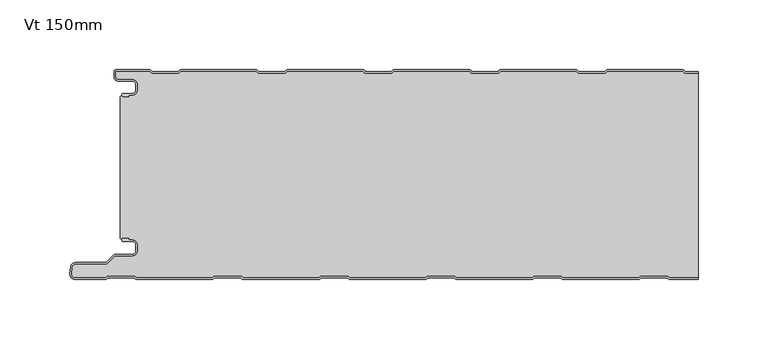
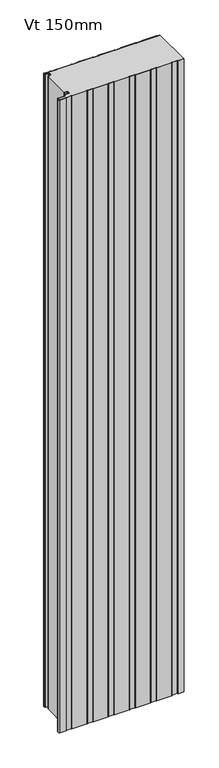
"""IFC4 building model written with IfcOpenShell, lengths in millimetres: plate geometry, KIP-MEX-KSS-1067-R19-CP-Vt-SL_SL : Vt 150mm."""

from ifc_helpers import new_model, si_unit, point, frame, frame_2d, origin, origin_with_axes, place, context, project, spatial, polyline, circle_curve, trimmed, segment, composite_curve, outline, extrude, source, transform, mapped, element, save
from ifc_brep_helpers import plane_surface, cylinder_surface, revolved_surface, advanced_brep


def vt_150mm_fdc8ce0f(model_context):
    return source(origin(), model_context, "Body", "SolidModel", [
        advanced_brep(
        [(-204.468691, -17.0015159, 2400.0), (-205.4686883, -18.0015191, 2400.0), (-204.468691, -19.0015105, 2400.0), (-200.4684874, -19.0015105, 2400.0), (-200.4684874, -18.0015159, 2400.0), (-197.7762776, -18.0015159, 2400.0), (-194.4762819, -14.7015202, 2400.0), (-194.4762819, -10.301529, 2400.0), (-197.7762774, -7.0015335, 2400.0), (-208.1962563, -7.0015335, 2400.0), (-209.9662505, -5.2315393, 2400.0), (-209.9662505, -0.9999916, 2400.0), (-185.4659738, -0.9999916, 2400.0), (-184.0803312, -2.2002307, 2400.0), (-164.7051649, -2.2002307, 2400.0), (-163.319532, -1.0, 2400.0), (-109.2661166, -1.0, 2400.0), (-107.8804836, -2.2002307, 2400.0), (-88.5053173, -2.2002307, 2400.0), (-87.1196844, -1.0, 2400.0), (-33.066269, -1.0, 2400.0), (-31.680636, -2.2002307, 2400.0), (-12.3054697, -2.2002307, 2400.0), (-10.9198368, -1.0, 2400.0), (43.1335786, -1.0, 2400.0), (44.5192116, -2.2002307, 2400.0), (63.8943779, -2.2002307, 2400.0), (65.2800108, -1.0, 2400.0), (119.3334262, -1.0, 2400.0), (120.7190592, -2.2002307, 2400.0), (140.0942255, -2.2002307, 2400.0), (141.4798584, -1.0, 2400.0), (195.5332738, -1.0, 2400.0), (196.9189068, -2.2002307, 2400.0), (206.4999998, -2.2002307, 2400.0), (206.4999998, -1.2002307, 2400.0), (197.2917872, -1.2002307, 2400.0), (196.3007396, -0.3417885, 2400.0), (195.3841227, 0.0, 2400.0), (141.6290096, 0.0, 2400.0), (140.7123927, -0.3417885, 2400.0), (139.7213451, -1.2002307, 2400.0), (121.0919396, -1.2002307, 2400.0), (120.100892, -0.3417885, 2400.0), (119.1842751, 0.0, 2400.0), (65.429162, 0.0, 2400.0), (64.5125451, -0.3417885, 2400.0), (63.5214975, -1.2002307, 2400.0), (44.892092, -1.2002307, 2400.0), (43.9010444, -0.3417885, 2400.0), (42.9844275, 0.0, 2400.0), (-10.7706856, 0.0, 2400.0), (-11.6873025, -0.3417885, 2400.0), (-12.6783501, -1.2002307, 2400.0), (-31.3077556, -1.2002307, 2400.0), (-32.2988032, -0.3417885, 2400.0), (-33.2154201, 0.0, 2400.0), (-86.9705332, 0.0, 2400.0), (-87.8871501, -0.3417885, 2400.0), (-88.8781977, -1.2002307, 2400.0), (-107.5076032, -1.2002307, 2400.0), (-108.4986508, -0.3417885, 2400.0), (-109.4152677, 0.0, 2400.0), (-163.1703808, 0.0, 2400.0), (-164.0869977, -0.3417885, 2400.0), (-165.0780453, -1.2002307, 2400.0), (-183.7074508, -1.2002307, 2400.0), (-184.6984984, -0.3417885, 2400.0), (-185.6152067, 0.0, 2400.0), (-209.5662543, 8.4e-06, 2400.0), (-210.9662505, -1.3999878, 2400.0), (-210.9662505, -5.2315393, 2400.0), (-208.1962563, -8.0015335, 2400.0), (-197.7762774, -8.0015335, 2400.0), (-195.4762819, -10.301529, 2400.0), (-195.4762819, -14.7015202, 2400.0), (-197.7762776, -17.0015159, 2400.0), (-204.468691, -17.0015159, 0.0), (-197.7762776, -17.0015159, 0.0), (-195.4762819, -14.7015202, 0.0), (-195.4762819, -10.301529, 0.0), (-197.7762774, -8.0015335, 0.0), (-208.1962563, -8.0015335, 0.0), (-210.9662505, -5.2315393, 0.0), (-210.9662505, -1.3999878, 0.0), (-209.5662543, 8.4e-06, 0.0), (-185.6151153, 8.4e-06, 0.0), (-184.6984984, -0.3417885, 0.0), (-183.7074508, -1.2002307, 0.0), (-165.0780453, -1.2002307, 0.0), (-164.0869977, -0.3417885, 0.0), (-163.1703808, 0.0, 0.0), (-109.4152677, 0.0, 0.0), (-108.4986508, -0.3417885, 0.0), (-107.5076032, -1.2002307, 0.0), (-88.8781977, -1.2002307, 0.0), (-87.8871501, -0.3417885, 0.0), (-86.9705332, 0.0, 0.0), (-33.2154201, 0.0, 0.0), (-32.2988032, -0.3417885, 0.0), (-31.3077556, -1.2002307, 0.0), (-12.6783501, -1.2002307, 0.0), (-11.6873025, -0.3417885, 0.0), (-10.7706856, 0.0, 0.0), (42.9844275, 0.0, 0.0), (43.9010444, -0.3417885, 0.0), (44.892092, -1.2002307, 0.0), (63.5214975, -1.2002307, 0.0), (64.5125451, -0.3417885, 0.0), (65.429162, 0.0, 0.0), (119.1842751, 0.0, 0.0), (120.100892, -0.3417885, 0.0), (121.0919396, -1.2002307, 0.0), (139.7213451, -1.2002307, 0.0), (140.7123927, -0.3417885, 0.0), (141.6290096, 0.0, 0.0), (195.3841227, 0.0, 0.0), (196.3007396, -0.3417885, 0.0), (197.2917872, -1.2002307, 0.0), (206.4999998, -1.2002307, 0.0), (206.4999998, -2.2002307, 0.0), (196.9189068, -2.2002307, 0.0), (195.5332738, -1.0, 0.0), (141.4798584, -1.0, 0.0), (140.0942255, -2.2002307, 0.0), (120.7190592, -2.2002307, 0.0), (119.3334262, -1.0, 0.0), (65.2800108, -1.0, 0.0), (63.8943779, -2.2002307, 0.0), (44.5192116, -2.2002307, 0.0), (43.1335786, -1.0, 0.0), (-10.9198368, -1.0, 0.0), (-12.3054697, -2.2002307, 0.0), (-31.680636, -2.2002307, 0.0), (-33.066269, -1.0, 0.0), (-87.1196844, -1.0, 0.0), (-88.5053173, -2.2002307, 0.0), (-107.8804836, -2.2002307, 0.0), (-109.2661166, -1.0, 0.0), (-163.319532, -1.0, 0.0), (-164.7051649, -2.2002307, 0.0), (-184.0803312, -2.2002307, 0.0), (-185.4659738, -0.9999916, 0.0), (-209.9662505, -0.9999916, 0.0), (-209.9662505, -5.2315393, 0.0), (-208.1962563, -7.0015335, 0.0), (-197.7762774, -7.0015335, 0.0), (-194.4762819, -10.301529, 0.0), (-194.4762819, -14.7015202, 0.0), (-197.7762776, -18.0015159, 0.0), (-200.4684874, -18.0015159, 0.0), (-200.4684874, -19.0015105, 0.0), (-204.468691, -19.0015105, 0.0), (-205.4686882, -18.0015192, 0.0)],
        [
            (0, 1, circle_curve(frame((-204.468691, -18.0015132, 2400.0), z_axis=(0.0, 0.0, 1.0), x_axis=(1.0, 0.0, 0.0)), 0.9999973)),
            (1, 2, circle_curve(frame((-204.468691, -18.0015133, 2400.0), z_axis=(0.0, 0.0, 1.0), x_axis=(1.0, 0.0, 0.0)), 0.9999972)),
            (2, 3),
            (3, 4),
            (4, 5),
            (5, 6, circle_curve(frame((-197.7762776, -14.7015202, 2400.0), z_axis=(0.0, 0.0, 1.0), x_axis=(1.0, 0.0, 0.0)), 3.2999957)),
            (6, 7),
            (7, 8, circle_curve(frame((-197.7762774, -10.301529, 2400.0), z_axis=(0.0, 0.0, 1.0), x_axis=(1.0, 0.0, 0.0)), 3.2999955)),
            (8, 9),
            (9, 10, circle_curve(frame((-208.1962563, -5.2315393, 2400.0), z_axis=(0.0, 0.0, -1.0), x_axis=(1.0, 0.0, 0.0)), 1.7699942)),
            (10, 11),
            (11, 12),
            (12, 13),
            (13, 14),
            (14, 15),
            (15, 16),
            (16, 17),
            (17, 18),
            (18, 19),
            (19, 20),
            (20, 21),
            (21, 22),
            (22, 23),
            (23, 24),
            (24, 25),
            (25, 26),
            (26, 27),
            (27, 28),
            (28, 29),
            (29, 30),
            (30, 31),
            (31, 32),
            (32, 33),
            (33, 34),
            (34, 35),
            (35, 36),
            (36, 37),
            (37, 38, circle_curve(frame((195.3841227, -1.3999972, 2400.0), z_axis=(0.0, 0.0, 1.0), x_axis=(1.0, 0.0, 0.0)), 1.3999972)),
            (38, 39),
            (39, 40, circle_curve(frame((141.6290096, -1.3999972, 2400.0), z_axis=(0.0, 0.0, 1.0), x_axis=(1.0, 0.0, 0.0)), 1.3999972)),
            (40, 41),
            (41, 42),
            (42, 43),
            (43, 44, circle_curve(frame((119.1842751, -1.3999972, 2400.0), z_axis=(0.0, 0.0, 1.0), x_axis=(1.0, 0.0, 0.0)), 1.3999972)),
            (44, 45),
            (45, 46, circle_curve(frame((65.429162, -1.3999972, 2400.0), z_axis=(0.0, 0.0, 1.0), x_axis=(1.0, 0.0, 0.0)), 1.3999972)),
            (46, 47),
            (47, 48),
            (48, 49),
            (49, 50, circle_curve(frame((42.9844275, -1.3999972, 2400.0), z_axis=(0.0, 0.0, 1.0), x_axis=(1.0, 0.0, 0.0)), 1.3999972)),
            (50, 51),
            (51, 52, circle_curve(frame((-10.7706856, -1.3999972, 2400.0), z_axis=(0.0, 0.0, 1.0), x_axis=(1.0, 0.0, 0.0)), 1.3999972)),
            (52, 53),
            (53, 54),
            (54, 55),
            (55, 56, circle_curve(frame((-33.2154201, -1.3999972, 2400.0), z_axis=(0.0, 0.0, 1.0), x_axis=(1.0, 0.0, 0.0)), 1.3999972)),
            (56, 57),
            (57, 58, circle_curve(frame((-86.9705332, -1.3999972, 2400.0), z_axis=(0.0, 0.0, 1.0), x_axis=(1.0, 0.0, 0.0)), 1.3999972)),
            (58, 59),
            (59, 60),
            (60, 61),
            (61, 62, circle_curve(frame((-109.4152677, -1.3999972, 2400.0), z_axis=(0.0, 0.0, 1.0), x_axis=(1.0, 0.0, 0.0)), 1.3999972)),
            (62, 63),
            (63, 64, circle_curve(frame((-163.1703808, -1.3999972, 2400.0), z_axis=(0.0, 0.0, 1.0), x_axis=(1.0, 0.0, 0.0)), 1.3999972)),
            (64, 65),
            (65, 66),
            (66, 67),
            (67, 68, circle_curve(frame((-185.6151153, -1.3999972, 2400.0), z_axis=(0.0, 0.0, 1.0), x_axis=(1.0, 0.0, 0.0)), 1.3999972)),
            (68, 69),
            (69, 70, circle_curve(frame((-209.5662543, -1.3999878, 2400.0), z_axis=(0.0, 0.0, 1.0), x_axis=(1.0, 0.0, 0.0)), 1.3999962)),
            (70, 71),
            (71, 72, circle_curve(frame((-208.1962563, -5.2315393, 2400.0), z_axis=(0.0, 0.0, 1.0), x_axis=(1.0, 0.0, 0.0)), 2.7699942)),
            (72, 73),
            (73, 74, circle_curve(frame((-197.7762774, -10.301529, 2400.0), z_axis=(0.0, 0.0, -1.0), x_axis=(1.0, 0.0, 0.0)), 2.2999955)),
            (74, 75),
            (75, 76, circle_curve(frame((-197.7762776, -14.7015202, 2400.0), z_axis=(0.0, 0.0, -1.0), x_axis=(1.0, 0.0, 0.0)), 2.2999957)),
            (76, 0),
            (77, 78),
            (78, 79, circle_curve(frame((-197.7762776, -14.7015202, 0.0), z_axis=(0.0, 0.0, 1.0), x_axis=(1.0, 0.0, 0.0)), 2.2999957)),
            (79, 80),
            (80, 81, circle_curve(frame((-197.7762774, -10.301529, 0.0), z_axis=(0.0, 0.0, 1.0), x_axis=(1.0, 0.0, 0.0)), 2.2999955)),
            (81, 82),
            (82, 83, circle_curve(frame((-208.1962563, -5.2315393, 0.0), z_axis=(0.0, 0.0, -1.0), x_axis=(1.0, 0.0, 0.0)), 2.7699942)),
            (83, 84),
            (84, 85, circle_curve(frame((-209.5662543, -1.3999878, 0.0), z_axis=(0.0, 0.0, -1.0), x_axis=(1.0, 0.0, 0.0)), 1.3999962)),
            (85, 86),
            (86, 87, circle_curve(frame((-185.6151153, -1.3999972, 0.0), z_axis=(0.0, 0.0, -1.0), x_axis=(1.0, 0.0, 0.0)), 1.3999972)),
            (87, 88),
            (88, 89),
            (89, 90),
            (90, 91, circle_curve(frame((-163.1703808, -1.3999972, 0.0), z_axis=(0.0, 0.0, -1.0), x_axis=(1.0, 0.0, 0.0)), 1.3999972)),
            (91, 92),
            (92, 93, circle_curve(frame((-109.4152677, -1.3999972, 0.0), z_axis=(0.0, 0.0, -1.0), x_axis=(1.0, 0.0, 0.0)), 1.3999972)),
            (93, 94),
            (94, 95),
            (95, 96),
            (96, 97, circle_curve(frame((-86.9705332, -1.3999972, 0.0), z_axis=(0.0, 0.0, -1.0), x_axis=(1.0, 0.0, 0.0)), 1.3999972)),
            (97, 98),
            (98, 99, circle_curve(frame((-33.2154201, -1.3999972, 0.0), z_axis=(0.0, 0.0, -1.0), x_axis=(1.0, 0.0, 0.0)), 1.3999972)),
            (99, 100),
            (100, 101),
            (101, 102),
            (102, 103, circle_curve(frame((-10.7706856, -1.3999972, 0.0), z_axis=(0.0, 0.0, -1.0), x_axis=(1.0, 0.0, 0.0)), 1.3999972)),
            (103, 104),
            (104, 105, circle_curve(frame((42.9844275, -1.3999972, 0.0), z_axis=(0.0, 0.0, -1.0), x_axis=(1.0, 0.0, 0.0)), 1.3999972)),
            (105, 106),
            (106, 107),
            (107, 108),
            (108, 109, circle_curve(frame((65.429162, -1.3999972, 0.0), z_axis=(0.0, 0.0, -1.0), x_axis=(1.0, 0.0, 0.0)), 1.3999972)),
            (109, 110),
            (110, 111, circle_curve(frame((119.1842751, -1.3999972, 0.0), z_axis=(0.0, 0.0, -1.0), x_axis=(1.0, 0.0, 0.0)), 1.3999972)),
            (111, 112),
            (112, 113),
            (113, 114),
            (114, 115, circle_curve(frame((141.6290096, -1.3999972, 0.0), z_axis=(0.0, 0.0, -1.0), x_axis=(1.0, 0.0, 0.0)), 1.3999972)),
            (115, 116),
            (116, 117, circle_curve(frame((195.3841227, -1.3999972, 0.0), z_axis=(0.0, 0.0, -1.0), x_axis=(1.0, 0.0, 0.0)), 1.3999972)),
            (117, 118),
            (118, 119),
            (119, 120),
            (120, 121),
            (121, 122),
            (122, 123),
            (123, 124),
            (124, 125),
            (125, 126),
            (126, 127),
            (127, 128),
            (128, 129),
            (129, 130),
            (130, 131),
            (131, 132),
            (132, 133),
            (133, 134),
            (134, 135),
            (135, 136),
            (136, 137),
            (137, 138),
            (138, 139),
            (139, 140),
            (140, 141),
            (141, 142),
            (142, 143),
            (143, 144),
            (144, 145, circle_curve(frame((-208.1962563, -5.2315393, 0.0), z_axis=(0.0, 0.0, 1.0), x_axis=(1.0, 0.0, 0.0)), 1.7699942)),
            (145, 146),
            (146, 147, circle_curve(frame((-197.7762774, -10.301529, 0.0), z_axis=(0.0, 0.0, -1.0), x_axis=(1.0, 0.0, 0.0)), 3.2999955)),
            (147, 148),
            (148, 149, circle_curve(frame((-197.7762776, -14.7015202, 0.0), z_axis=(0.0, 0.0, -1.0), x_axis=(1.0, 0.0, 0.0)), 3.2999957)),
            (149, 150),
            (150, 151),
            (151, 152),
            (152, 153, circle_curve(frame((-204.468691, -18.0015133, 0.0), z_axis=(0.0, 0.0, -1.0), x_axis=(1.0, 0.0, 0.0)), 0.9999972)),
            (153, 77, circle_curve(frame((-204.468691, -18.0015132, 0.0), z_axis=(0.0, 0.0, -1.0), x_axis=(1.0, 0.0, 0.0)), 0.9999973)),
            (76, 78),
            (77, 0),
            (75, 79),
            (74, 80),
            (73, 81),
            (72, 82),
            (71, 83),
            (70, 84),
            (69, 85),
            (68, 86),
            (67, 87),
            (66, 88),
            (65, 89),
            (64, 90),
            (63, 91),
            (62, 92),
            (61, 93),
            (60, 94),
            (59, 95),
            (58, 96),
            (57, 97),
            (56, 98),
            (55, 99),
            (54, 100),
            (53, 101),
            (52, 102),
            (51, 103),
            (50, 104),
            (49, 105),
            (48, 106),
            (47, 107),
            (46, 108),
            (45, 109),
            (44, 110),
            (43, 111),
            (42, 112),
            (41, 113),
            (40, 114),
            (39, 115),
            (38, 116),
            (37, 117),
            (36, 118),
            (35, 119),
            (120, 34),
            (33, 121),
            (32, 122),
            (31, 123),
            (30, 124),
            (29, 125),
            (28, 126),
            (27, 127),
            (26, 128),
            (25, 129),
            (24, 130),
            (23, 131),
            (22, 132),
            (21, 133),
            (20, 134),
            (19, 135),
            (18, 136),
            (17, 137),
            (16, 138),
            (15, 139),
            (14, 140),
            (13, 141),
            (12, 142),
            (11, 143),
            (10, 144),
            (9, 145),
            (8, 146),
            (7, 147),
            (6, 148),
            (5, 149),
            (4, 150),
            (3, 151),
            (2, 152),
            (1, 153),
        ],
        [
            plane_surface(frame((326.9000002, 0.0, 2400.0), z_axis=(0.0, 0.0, 1.0), x_axis=(0.0, 1.0, 0.0))),
            plane_surface(frame((326.9000002, 0.0, 0.0), z_axis=(0.0, 0.0, -1.0), x_axis=(0.0, 1.0, 0.0))),
            plane_surface(frame((-204.468691, -17.0015159, 2400.0), z_axis=(0.0, 1.0, 0.0), x_axis=(0.0, 0.0, -1.0))),
            revolved_surface(polyline([(-195.47628189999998, -14.7015202, 0.0), (-195.47628189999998, -14.7015202, 2400.0)]), (-197.7762776, -14.7015202, 2400.0), (0.0, 0.0, -1.0)),
            plane_surface(frame((-195.4762819, -14.7015202, 2400.0), z_axis=(-1.0, 0.0, 0.0), x_axis=(0.0, 0.0, -1.0))),
            revolved_surface(polyline([(-195.4762819, -10.301529, 0.0), (-195.4762819, -10.301529, 2400.0)]), (-197.7762774, -10.301529, 2400.0), (0.0, 0.0, -1.0)),
            plane_surface(frame((-197.7762774, -8.0015335, 2400.0), z_axis=(0.0, -1.0, 0.0), x_axis=(0.0, 0.0, -1.0))),
            cylinder_surface(frame((-208.1962563, -5.2315393, 2400.0), z_axis=(0.0, 0.0, 1.0), x_axis=(1.0, 0.0, 0.0)), 2.7699942),
            plane_surface(frame((-210.9662505, -5.2315393, 2400.0), z_axis=(-1.0, 0.0, 0.0), x_axis=(0.0, 0.0, -1.0))),
            cylinder_surface(frame((-209.5662543, -1.3999878, 2400.0), z_axis=(0.0, 0.0, 1.0), x_axis=(1.0, 0.0, 0.0)), 1.3999962),
            plane_surface(frame((-209.5662543, 8.4e-06, 2400.0), z_axis=(0.0, 1.0, 0.0), x_axis=(0.0, 0.0, -1.0))),
            cylinder_surface(frame((-185.6151153, -1.3999972, 2400.0), z_axis=(0.0, 0.0, 1.0), x_axis=(1.0, 0.0, 0.0)), 1.3999972),
            plane_surface(frame((-184.6984984, -0.3417885, 2400.0), z_axis=(0.6547276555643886, 0.755864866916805, 0.0), x_axis=(0.0, 0.0, -1.0))),
            plane_surface(frame((-174.3927481, -1.2002307, 2400.0), z_axis=(0.0, 1.0, 0.0), x_axis=(0.0, 0.0, -1.0))),
            plane_surface(frame((-165.0780453, -1.2002307, 2400.0), z_axis=(-0.6547276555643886, 0.755864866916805, 0.0), x_axis=(0.0, 0.0, -1.0))),
            cylinder_surface(frame((-163.1703808, -1.3999972, 2400.0), z_axis=(0.0, 0.0, 1.0), x_axis=(1.0, 0.0, 0.0)), 1.3999972),
            plane_surface(frame((-163.1703808, 0.0, 2400.0), z_axis=(0.0, 1.0, 0.0), x_axis=(0.0, 0.0, -1.0))),
            cylinder_surface(frame((-109.4152677, -1.3999972, 2400.0), z_axis=(0.0, 0.0, 1.0), x_axis=(1.0, 0.0, 0.0)), 1.3999972),
            plane_surface(frame((-108.4986508, -0.3417885, 2400.0), z_axis=(0.6547276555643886, 0.755864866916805, 0.0), x_axis=(0.0, 0.0, -1.0))),
            plane_surface(frame((-98.1929005, -1.2002307, 2400.0), z_axis=(0.0, 1.0, 0.0), x_axis=(0.0, 0.0, -1.0))),
            plane_surface(frame((-88.8781977, -1.2002307, 2400.0), z_axis=(-0.6547276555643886, 0.755864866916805, 0.0), x_axis=(0.0, 0.0, -1.0))),
            cylinder_surface(frame((-86.9705332, -1.3999972, 2400.0), z_axis=(0.0, 0.0, 1.0), x_axis=(1.0, 0.0, 0.0)), 1.3999972),
            plane_surface(frame((-86.9705332, 0.0, 2400.0), z_axis=(0.0, 1.0, 0.0), x_axis=(0.0, 0.0, -1.0))),
            cylinder_surface(frame((-33.2154201, -1.3999972, 2400.0), z_axis=(0.0, 0.0, 1.0), x_axis=(1.0, 0.0, 0.0)), 1.3999972),
            plane_surface(frame((-32.2988032, -0.3417885, 2400.0), z_axis=(0.6547276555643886, 0.755864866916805, 0.0), x_axis=(0.0, 0.0, -1.0))),
            plane_surface(frame((-21.9930529, -1.2002307, 2400.0), z_axis=(0.0, 1.0, 0.0), x_axis=(0.0, 0.0, -1.0))),
            plane_surface(frame((-12.6783501, -1.2002307, 2400.0), z_axis=(-0.6547276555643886, 0.755864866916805, 0.0), x_axis=(0.0, 0.0, -1.0))),
            cylinder_surface(frame((-10.7706856, -1.3999972, 2400.0), z_axis=(0.0, 0.0, 1.0), x_axis=(1.0, 0.0, 0.0)), 1.3999972),
            plane_surface(frame((-10.7706856, 0.0, 2400.0), z_axis=(0.0, 1.0, 0.0), x_axis=(0.0, 0.0, -1.0))),
            cylinder_surface(frame((42.9844275, -1.3999972, 2400.0), z_axis=(0.0, 0.0, 1.0), x_axis=(1.0, 0.0, 0.0)), 1.3999972),
            plane_surface(frame((43.9010444, -0.3417885, 2400.0), z_axis=(0.6547276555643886, 0.755864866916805, 0.0), x_axis=(0.0, 0.0, -1.0))),
            plane_surface(frame((54.2067947, -1.2002307, 2400.0), z_axis=(0.0, 1.0, 0.0), x_axis=(0.0, 0.0, -1.0))),
            plane_surface(frame((63.5214975, -1.2002307, 2400.0), z_axis=(-0.6547276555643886, 0.755864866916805, 0.0), x_axis=(0.0, 0.0, -1.0))),
            cylinder_surface(frame((65.429162, -1.3999972, 2400.0), z_axis=(0.0, 0.0, 1.0), x_axis=(1.0, 0.0, 0.0)), 1.3999972),
            plane_surface(frame((65.429162, 0.0, 2400.0), z_axis=(0.0, 1.0, 0.0), x_axis=(0.0, 0.0, -1.0))),
            cylinder_surface(frame((119.1842751, -1.3999972, 2400.0), z_axis=(0.0, 0.0, 1.0), x_axis=(1.0, 0.0, 0.0)), 1.3999972),
            plane_surface(frame((120.100892, -0.3417885, 2400.0), z_axis=(0.6547276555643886, 0.755864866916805, 0.0), x_axis=(0.0, 0.0, -1.0))),
            plane_surface(frame((130.4066423, -1.2002307, 2400.0), z_axis=(0.0, 1.0, 0.0), x_axis=(0.0, 0.0, -1.0))),
            plane_surface(frame((139.7213451, -1.2002307, 2400.0), z_axis=(-0.6547276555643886, 0.755864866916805, 0.0), x_axis=(0.0, 0.0, -1.0))),
            cylinder_surface(frame((141.6290096, -1.3999972, 2400.0), z_axis=(0.0, 0.0, 1.0), x_axis=(1.0, 0.0, 0.0)), 1.3999972),
            plane_surface(frame((141.6290096, 0.0, 2400.0), z_axis=(0.0, 1.0, 0.0), x_axis=(0.0, 0.0, -1.0))),
            cylinder_surface(frame((195.3841227, -1.3999972, 2400.0), z_axis=(0.0, 0.0, 1.0), x_axis=(1.0, 0.0, 0.0)), 1.3999972),
            plane_surface(frame((196.3007396, -0.3417885, 2400.0), z_axis=(0.6547276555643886, 0.755864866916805, 0.0), x_axis=(0.0, 0.0, -1.0))),
            plane_surface(frame((206.6064899, -1.2002307, 2400.0), z_axis=(0.0, 1.0, 0.0), x_axis=(0.0, 0.0, -1.0))),
            plane_surface(frame((216.2940731, -2.2002307, 2400.0), z_axis=(0.0, -1.0, 0.0), x_axis=(0.0, 0.0, -1.0))),
            plane_surface(frame((196.9189068, -2.2002307, 2400.0), z_axis=(-0.6547276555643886, -0.755864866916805, 0.0), x_axis=(0.0, 0.0, -1.0))),
            plane_surface(frame((195.5332738, -1.0, 2400.0), z_axis=(0.0, -1.0, 0.0), x_axis=(0.0, 0.0, -1.0))),
            plane_surface(frame((141.4798584, -1.0, 2400.0), z_axis=(0.6547276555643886, -0.755864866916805, 0.0), x_axis=(0.0, 0.0, -1.0))),
            plane_surface(frame((140.0942255, -2.2002307, 2400.0), z_axis=(0.0, -1.0, 0.0), x_axis=(0.0, 0.0, -1.0))),
            plane_surface(frame((120.7190592, -2.2002307, 2400.0), z_axis=(-0.6547276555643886, -0.755864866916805, 0.0), x_axis=(0.0, 0.0, -1.0))),
            plane_surface(frame((119.3334262, -1.0, 2400.0), z_axis=(0.0, -1.0, 0.0), x_axis=(0.0, 0.0, -1.0))),
            plane_surface(frame((65.2800108, -1.0, 2400.0), z_axis=(0.6547276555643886, -0.755864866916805, 0.0), x_axis=(0.0, 0.0, -1.0))),
            plane_surface(frame((63.8943779, -2.2002307, 2400.0), z_axis=(0.0, -1.0, 0.0), x_axis=(0.0, 0.0, -1.0))),
            plane_surface(frame((44.5192116, -2.2002307, 2400.0), z_axis=(-0.6547276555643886, -0.755864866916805, 0.0), x_axis=(0.0, 0.0, -1.0))),
            plane_surface(frame((43.1335786, -1.0, 2400.0), z_axis=(0.0, -1.0, 0.0), x_axis=(0.0, 0.0, -1.0))),
            plane_surface(frame((-10.9198368, -1.0, 2400.0), z_axis=(0.6547276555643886, -0.755864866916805, 0.0), x_axis=(0.0, 0.0, -1.0))),
            plane_surface(frame((-12.3054697, -2.2002307, 2400.0), z_axis=(0.0, -1.0, 0.0), x_axis=(0.0, 0.0, -1.0))),
            plane_surface(frame((-31.680636, -2.2002307, 2400.0), z_axis=(-0.6547276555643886, -0.755864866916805, 0.0), x_axis=(0.0, 0.0, -1.0))),
            plane_surface(frame((-33.066269, -1.0, 2400.0), z_axis=(0.0, -1.0, 0.0), x_axis=(0.0, 0.0, -1.0))),
            plane_surface(frame((-87.1196844, -1.0, 2400.0), z_axis=(0.6547276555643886, -0.755864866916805, 0.0), x_axis=(0.0, 0.0, -1.0))),
            plane_surface(frame((-88.5053173, -2.2002307, 2400.0), z_axis=(0.0, -1.0, 0.0), x_axis=(0.0, 0.0, -1.0))),
            plane_surface(frame((-107.8804836, -2.2002307, 2400.0), z_axis=(-0.6547276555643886, -0.755864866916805, 0.0), x_axis=(0.0, 0.0, -1.0))),
            plane_surface(frame((-109.2661166, -1.0, 2400.0), z_axis=(0.0, -1.0, 0.0), x_axis=(0.0, 0.0, -1.0))),
            plane_surface(frame((-163.319532, -1.0, 2400.0), z_axis=(0.6547276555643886, -0.755864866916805, 0.0), x_axis=(0.0, 0.0, -1.0))),
            plane_surface(frame((-164.7051649, -2.2002307, 2400.0), z_axis=(0.0, -1.0, 0.0), x_axis=(0.0, 0.0, -1.0))),
            plane_surface(frame((-184.0803312, -2.2002307, 2400.0), z_axis=(-0.6547276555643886, -0.755864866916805, 0.0), x_axis=(0.0, 0.0, -1.0))),
            plane_surface(frame((-185.4659738, -0.9999916, 2400.0), z_axis=(0.0, -1.0, 0.0), x_axis=(0.0, 0.0, -1.0))),
            plane_surface(frame((-209.9662505, -0.9999916, 2400.0), z_axis=(1.0, 0.0, 0.0), x_axis=(0.0, 0.0, -1.0))),
            revolved_surface(polyline([(-206.42626209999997, -5.2315393, 0.0), (-206.42626209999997, -5.2315393, 2400.0)]), (-208.1962563, -5.2315393, 2400.0), (0.0, 0.0, -1.0)),
            plane_surface(frame((-208.1962563, -7.0015335, 2400.0), z_axis=(0.0, 1.0, 0.0), x_axis=(0.0, 0.0, -1.0))),
            cylinder_surface(frame((-197.7762774, -10.301529, 2400.0), z_axis=(0.0, 0.0, 1.0), x_axis=(1.0, 0.0, 0.0)), 3.2999955),
            plane_surface(frame((-194.4762819, -10.301529, 2400.0), z_axis=(1.0, 0.0, 0.0), x_axis=(0.0, 0.0, -1.0))),
            cylinder_surface(frame((-197.7762776, -14.7015202, 2400.0), z_axis=(0.0, 0.0, 1.0), x_axis=(1.0, 0.0, 0.0)), 3.2999957),
            plane_surface(frame((-197.7762776, -18.0015159, 2400.0), z_axis=(0.0, -1.0, 0.0), x_axis=(0.0, 0.0, -1.0))),
            plane_surface(frame((-200.4684874, -18.0015159, 2400.0), z_axis=(1.0, 0.0, 0.0), x_axis=(0.0, 0.0, -1.0))),
            plane_surface(frame((-200.4684874, -19.0015105, 2400.0), z_axis=(0.0, -1.0, 0.0), x_axis=(0.0, 0.0, -1.0))),
            cylinder_surface(frame((-204.468691, -18.0015133, 2400.0), z_axis=(0.0, 0.0, 1.0), x_axis=(1.0, 0.0, 0.0)), 0.9999972),
            cylinder_surface(frame((-204.468691, -18.0015132, 2400.0), z_axis=(0.0, 0.0, 1.0), x_axis=(1.0, 0.0, 0.0)), 0.9999973),
            plane_surface(frame((206.4999998, -160.0, 2400.0), z_axis=(1.0, 0.0, 0.0), x_axis=(0.0, 0.0, -1.0))),
        ],
        [
            (0, [[1, 2, 3, 4, 5, 6, 7, 8, 9, 10, 11, 12, 13, 14, 15, 16, 17, 18, 19, 20, 21, 22, 23, 24, 25, 26, 27, 28, 29, 30, 31, 32, 33, 34, 35, 36, 37, 38, 39, 40, 41, 42, 43, 44, 45, 46, 47, 48, 49, 50, 51, 52, 53, 54, 55, 56, 57, 58, 59, 60, 61, 62, 63, 64, 65, 66, 67, 68, 69, 70, 71, 72, 73, 74, 75, 76, 77]]),
            (1, [[78, 79, 80, 81, 82, 83, 84, 85, 86, 87, 88, 89, 90, 91, 92, 93, 94, 95, 96, 97, 98, 99, 100, 101, 102, 103, 104, 105, 106, 107, 108, 109, 110, 111, 112, 113, 114, 115, 116, 117, 118, 119, 120, 121, 122, 123, 124, 125, 126, 127, 128, 129, 130, 131, 132, 133, 134, 135, 136, 137, 138, 139, 140, 141, 142, 143, 144, 145, 146, 147, 148, 149, 150, 151, 152, 153, 154]]),
            (2, [[155, -78, 156, -77]]),
            (3, [[157, -79, -155, -76]]),
            (4, [[158, -80, -157, -75]]),
            (5, [[159, -81, -158, -74]]),
            (6, [[160, -82, -159, -73]]),
            (7, [[161, -83, -160, -72]]),
            (8, [[162, -84, -161, -71]]),
            (9, [[163, -85, -162, -70]]),
            (10, [[164, -86, -163, -69]]),
            (11, [[165, -87, -164, -68]]),
            (12, [[166, -88, -165, -67]]),
            (13, [[167, -89, -166, -66]]),
            (14, [[168, -90, -167, -65]]),
            (15, [[169, -91, -168, -64]]),
            (16, [[170, -92, -169, -63]]),
            (17, [[171, -93, -170, -62]]),
            (18, [[172, -94, -171, -61]]),
            (19, [[173, -95, -172, -60]]),
            (20, [[174, -96, -173, -59]]),
            (21, [[175, -97, -174, -58]]),
            (22, [[176, -98, -175, -57]]),
            (23, [[177, -99, -176, -56]]),
            (24, [[178, -100, -177, -55]]),
            (25, [[179, -101, -178, -54]]),
            (26, [[180, -102, -179, -53]]),
            (27, [[181, -103, -180, -52]]),
            (28, [[182, -104, -181, -51]]),
            (29, [[183, -105, -182, -50]]),
            (30, [[184, -106, -183, -49]]),
            (31, [[185, -107, -184, -48]]),
            (32, [[186, -108, -185, -47]]),
            (33, [[187, -109, -186, -46]]),
            (34, [[188, -110, -187, -45]]),
            (35, [[189, -111, -188, -44]]),
            (36, [[190, -112, -189, -43]]),
            (37, [[191, -113, -190, -42]]),
            (38, [[192, -114, -191, -41]]),
            (39, [[193, -115, -192, -40]]),
            (40, [[194, -116, -193, -39]]),
            (41, [[195, -117, -194, -38]]),
            (42, [[196, -118, -195, -37]]),
            (43, [[-36, 197, -119, -196]]),
            (44, [[-121, 198, -34, 199]]),
            (45, [[200, -122, -199, -33]]),
            (46, [[201, -123, -200, -32]]),
            (47, [[202, -124, -201, -31]]),
            (48, [[203, -125, -202, -30]]),
            (49, [[204, -126, -203, -29]]),
            (50, [[205, -127, -204, -28]]),
            (51, [[206, -128, -205, -27]]),
            (52, [[207, -129, -206, -26]]),
            (53, [[208, -130, -207, -25]]),
            (54, [[209, -131, -208, -24]]),
            (55, [[210, -132, -209, -23]]),
            (56, [[211, -133, -210, -22]]),
            (57, [[212, -134, -211, -21]]),
            (58, [[213, -135, -212, -20]]),
            (59, [[214, -136, -213, -19]]),
            (60, [[215, -137, -214, -18]]),
            (61, [[216, -138, -215, -17]]),
            (62, [[217, -139, -216, -16]]),
            (63, [[218, -140, -217, -15]]),
            (64, [[219, -141, -218, -14]]),
            (65, [[220, -142, -219, -13]]),
            (66, [[221, -143, -220, -12]]),
            (67, [[222, -144, -221, -11]]),
            (68, [[223, -145, -222, -10]]),
            (69, [[224, -146, -223, -9]]),
            (70, [[225, -147, -224, -8]]),
            (71, [[226, -148, -225, -7]]),
            (72, [[227, -149, -226, -6]]),
            (73, [[228, -150, -227, -5]]),
            (74, [[229, -151, -228, -4]]),
            (75, [[230, -152, -229, -3]]),
            (76, [[231, -153, -230, -2]]),
            (77, [[-156, -154, -231, -1]]),
            (78, [[-198, -120, -197, -35]]),
        ],
    ),
        extrude(outline(composite_curve([segment(polyline([(-217.1415932, -150.0006394), (-238.9521175, -150.0006394)]), True, "CONTINUOUS"), segment(trimmed(circle_curve(frame_2d((-238.9521175, -146.4304001)), 3.5702393), [point((-238.9521175, -150.0006394))], [point((-242.5087619, -146.1191297))], False, "CARTESIAN"), True, "CONTINUOUS"), segment(polyline([(-242.5087619, -146.1191297), (-242.0690674, -141.0950831)]), True, "CONTINUOUS"), segment(trimmed(circle_curve(frame_2d((-238.4198391, -141.7058842)), 3.6999926), [point((-242.0690674, -141.0950831))], [point((-238.4198391, -138.0058916))], False, "CARTESIAN"), True, "CONTINUOUS"), segment(polyline([(-238.4198391, -138.0058916), (-217.2773995, -138.0058916)]), True, "CONTINUOUS"), segment(trimmed(circle_curve(frame_2d((-217.2773995, -136.7058942)), 1.2999974), [point((-217.2773995, -138.0058916))], [point((-216.3581626, -137.6251312))], True, "CARTESIAN"), True, "CONTINUOUS"), segment(polyline([(-216.3581626, -137.6251312), (-211.5297451, -132.7967137)]), True, "CONTINUOUS"), segment(trimmed(circle_curve(frame_2d((-209.6205606, -134.7058982)), 2.6999946), [point((-211.5297451, -132.7967137))], [point((-209.6205606, -132.0059036))], False, "CARTESIAN"), True, "CONTINUOUS"), segment(polyline([(-209.6205606, -132.0059036), (-197.8096715, -132.0059036)]), True, "CONTINUOUS"), segment(trimmed(circle_curve(frame_2d((-197.8096715, -129.6559083)), 2.3499953), [point((-197.8096715, -132.0059036))], [point((-195.4596762, -129.6559083))], True, "CARTESIAN"), True, "CONTINUOUS"), segment(polyline([(-195.4596762, -129.6559083), (-195.4596762, -125.2559171)]), True, "CONTINUOUS"), segment(trimmed(circle_curve(frame_2d((-197.8096715, -125.2559171)), 2.3499953), [point((-195.4596762, -125.2559171))], [point((-197.8096715, -122.9059218))], True, "CARTESIAN"), True, "CONTINUOUS"), segment(polyline([(-197.8096715, -122.9059218), (-204.3289777, -122.9059218)]), True, "CONTINUOUS"), segment(trimmed(circle_curve(frame_2d((-204.2686906, -121.7074396)), 1.1999976), [point((-204.3289777, -122.9059218))], [point((-205.4683, -121.6769177))], False, "CARTESIAN"), True, "CONTINUOUS"), segment(trimmed(circle_curve(frame_2d((-204.2686906, -121.7074396)), 1.1999976), [point((-205.4683, -121.6769177))], [point((-204.267176, -120.5074429))], False, "CARTESIAN"), True, "CONTINUOUS"), segment(polyline([(-204.267176, -120.5074429), (-200.5087826, -120.5074429), (-200.5087826, -121.9059218), (-197.8096715, -121.9059218)]), True, "CONTINUOUS"), segment(trimmed(circle_curve(frame_2d((-197.8096715, -125.2559171)), 3.3499953), [point((-197.8096715, -121.9059218))], [point((-194.4596762, -125.2559171))], False, "CARTESIAN"), True, "CONTINUOUS"), segment(polyline([(-194.4596762, -125.2559171), (-194.4596762, -129.6559083)]), True, "CONTINUOUS"), segment(trimmed(circle_curve(frame_2d((-197.8096715, -129.6559083)), 3.3499953), [point((-194.4596762, -129.6559083))], [point((-197.8096715, -133.0059036))], False, "CARTESIAN"), True, "CONTINUOUS"), segment(polyline([(-197.8096715, -133.0059036), (-209.6205606, -133.0059036)]), True, "CONTINUOUS"), segment(trimmed(circle_curve(frame_2d((-209.6205606, -134.7058982)), 1.6999946), [point((-209.6205606, -133.0059036))], [point((-210.8226383, -133.5038205))], True, "CARTESIAN"), True, "CONTINUOUS"), segment(polyline([(-210.8226383, -133.5038205), (-216.3247094, -139.0058916), (-238.4198391, -139.0058916)]), True, "CONTINUOUS"), segment(trimmed(circle_curve(frame_2d((-238.4198391, -141.7058842)), 2.6999926), [point((-238.4198391, -139.0058916))], [point((-241.0765707, -141.2244936))], True, "CARTESIAN"), True, "CONTINUOUS"), segment(polyline([(-241.0765707, -141.2244936), (-241.5125697, -146.2063145)]), True, "CONTINUOUS"), segment(trimmed(circle_curve(frame_2d((-238.9521175, -146.4304001)), 2.5702393), [point((-241.5125697, -146.2063145))], [point((-238.9521175, -149.0006394))], True, "CARTESIAN"), True, "CONTINUOUS"), segment(polyline([(-238.9521175, -149.0006394), (-216.979096, -149.0006394), (-215.7791275, -147.8006709), (-196.059715, -147.8006709), (-194.8594843, -149.0009016), (-140.7793525, -149.0009016), (-139.5791218, -147.8006709), (-119.8597093, -147.8006709), (-118.6594786, -149.0009016), (-64.5793468, -149.0009016), (-63.3791161, -147.8006709), (-43.6597036, -147.8006709), (-42.4594729, -149.0009016), (11.6206589, -149.0009016), (12.8208896, -147.8006709), (32.5403021, -147.8006709), (33.7405328, -149.0009016), (87.8206646, -149.0009016), (89.0208953, -147.8006709), (108.7403078, -147.8006709), (109.9405385, -149.0009016), (164.0206703, -149.0009016), (165.220901, -147.8006709), (184.9403135, -147.8006709), (186.1405442, -149.0009016), (206.4999998, -149.0009016), (206.4999998, -150.0009016), (186.3099792, -150.0009016)]), True, "CONTINUOUS"), segment(trimmed(circle_curve(frame_2d((186.3023258, -148.6009253)), 1.3999972), [point((186.3099792, -150.0009016))], [point((185.258275, -149.5336365))], False, "CARTESIAN"), True, "CONTINUOUS"), segment(polyline([(185.258275, -149.5336365), (184.5253094, -148.8006709), (165.6346402, -148.8006709), (164.9016956, -149.5336156)]), True, "CONTINUOUS"), segment(trimmed(circle_curve(frame_2d((163.8576448, -148.6009044)), 1.3999972), [point((164.9016956, -149.5336156))], [point((163.8576448, -150.0009016))], False, "CARTESIAN"), True, "CONTINUOUS"), segment(polyline([(163.8576448, -150.0009016), (110.1101316, -150.0009016)]), True, "CONTINUOUS"), segment(trimmed(circle_curve(frame_2d((110.1024782, -148.6009253)), 1.3999972), [point((110.1101316, -150.0009016))], [point((109.0584274, -149.5336365))], False, "CARTESIAN"), True, "CONTINUOUS"), segment(polyline([(109.0584274, -149.5336365), (108.3254618, -148.8006709), (89.4347926, -148.8006709), (88.701848, -149.5336156)]), True, "CONTINUOUS"), segment(trimmed(circle_curve(frame_2d((87.6577972, -148.6009044)), 1.3999972), [point((88.701848, -149.5336156))], [point((87.6577972, -150.0009016))], False, "CARTESIAN"), True, "CONTINUOUS"), segment(polyline([(87.6577972, -150.0009016), (33.910284, -150.0009016)]), True, "CONTINUOUS"), segment(trimmed(circle_curve(frame_2d((33.9026306, -148.6009253)), 1.3999972), [point((33.910284, -150.0009016))], [point((32.8585798, -149.5336365))], False, "CARTESIAN"), True, "CONTINUOUS"), segment(polyline([(32.8585798, -149.5336365), (32.1256142, -148.8006709), (13.234945, -148.8006709), (12.5020004, -149.5336156)]), True, "CONTINUOUS"), segment(trimmed(circle_curve(frame_2d((11.4579496, -148.6009044)), 1.3999972), [point((12.5020004, -149.5336156))], [point((11.4579496, -150.0009016))], False, "CARTESIAN"), True, "CONTINUOUS"), segment(polyline([(11.4579496, -150.0009016), (-42.2895636, -150.0009016)]), True, "CONTINUOUS"), segment(trimmed(circle_curve(frame_2d((-42.297217, -148.6009253)), 1.3999972), [point((-42.2895636, -150.0009016))], [point((-43.3412678, -149.5336365))], False, "CARTESIAN"), True, "CONTINUOUS"), segment(polyline([(-43.3412678, -149.5336365), (-44.0742334, -148.8006709), (-62.9649026, -148.8006709), (-63.6978472, -149.5336156)]), True, "CONTINUOUS"), segment(trimmed(circle_curve(frame_2d((-64.741898, -148.6009044)), 1.3999972), [point((-63.6978472, -149.5336156))], [point((-64.741898, -150.0009016))], False, "CARTESIAN"), True, "CONTINUOUS"), segment(polyline([(-64.741898, -150.0009016), (-118.4894112, -150.0009016)]), True, "CONTINUOUS"), segment(trimmed(circle_curve(frame_2d((-118.4970646, -148.6009253)), 1.3999972), [point((-118.4894112, -150.0009016))], [point((-119.5411154, -149.5336365))], False, "CARTESIAN"), True, "CONTINUOUS"), segment(polyline([(-119.5411154, -149.5336365), (-120.274081, -148.8006709), (-139.1647502, -148.8006709), (-139.8976948, -149.5336156)]), True, "CONTINUOUS"), segment(trimmed(circle_curve(frame_2d((-140.9417456, -148.6009044)), 1.3999972), [point((-139.8976948, -149.5336156))], [point((-140.9417456, -150.0009016))], False, "CARTESIAN"), True, "CONTINUOUS"), segment(polyline([(-140.9417456, -150.0009016), (-194.6892588, -150.0009016)]), True, "CONTINUOUS"), segment(trimmed(circle_curve(frame_2d((-194.6969122, -148.6009253)), 1.3999972), [point((-194.6892588, -150.0009016))], [point((-195.740963, -149.5336365))], False, "CARTESIAN"), True, "CONTINUOUS"), segment(polyline([(-195.740963, -149.5336365), (-196.4739286, -148.8006709), (-215.3649139, -148.8006709), (-216.0976402, -149.5333971)]), True, "CONTINUOUS"), segment(trimmed(circle_curve(frame_2d((-217.1415932, -148.6007733)), 1.3998661), [point((-216.0976402, -149.5333971))], [point((-217.1415932, -150.0006394))], False, "CARTESIAN"), True, "CONTINUOUS")], self_intersect=False)), origin_with_axes(), (0.0, 0.0, 1.0), 2400.0),
        extrude(outline(composite_curve([segment(polyline([(-205.4683, -121.670875), (-206.4999998, -120.6391751), (-206.4999998, -19.0328308), (-205.4686882, -18.0015192)]), True, "CONTINUOUS"), segment(trimmed(circle_curve(frame_2d((-204.468691, -18.0015133)), 0.9999972), [point((-205.4686882, -18.0015192))], [point((-204.468691, -19.0015105))], True, "CARTESIAN"), True, "CONTINUOUS"), segment(polyline([(-204.468691, -19.0015105), (-200.4684873, -19.0015105), (-200.4684873, -18.0015159), (-197.7762775, -18.0015159)]), True, "CONTINUOUS"), segment(trimmed(circle_curve(frame_2d((-197.7762775, -14.7015202)), 3.2999957), [point((-197.7762775, -18.0015159))], [point((-194.4762818, -14.7015202))], True, "CARTESIAN"), True, "CONTINUOUS"), segment(polyline([(-194.4762818, -14.7015202), (-194.4762818, -10.301529)]), True, "CONTINUOUS"), segment(trimmed(circle_curve(frame_2d((-197.7762777, -10.301529)), 3.2999959), [point((-194.4762818, -10.301529))], [point((-197.7762777, -7.0015331))], True, "CARTESIAN"), True, "CONTINUOUS"), segment(polyline([(-197.7762777, -7.0015331), (-208.1962562, -7.0015331)]), True, "CONTINUOUS"), segment(trimmed(circle_curve(frame_2d((-208.1962562, -5.2315389)), 1.7699942), [point((-208.1962562, -7.0015331))], [point((-209.9662504, -5.2315389))], False, "CARTESIAN"), True, "CONTINUOUS"), segment(polyline([(-209.9662504, -5.2315389), (-209.9662504, -0.9999916), (-185.4659738, -0.9999916), (-184.0803312, -2.2002307), (-164.7051649, -2.2002307), (-163.3195319, -1.0), (-109.2661165, -1.0), (-107.8804836, -2.2002307), (-88.5053173, -2.2002307), (-87.1196843, -1.0), (-33.0662689, -1.0), (-31.680636, -2.2002307), (-12.3054697, -2.2002307), (-10.9198367, -1.0), (43.1335787, -1.0), (44.5192116, -2.2002307), (63.8943779, -2.2002307), (65.2800109, -1.0), (119.3334263, -1.0), (120.7190592, -2.2002307), (140.0942255, -2.2002307), (141.4798585, -1.0), (195.5332739, -1.0), (196.9189068, -2.2002307), (206.4999998, -2.2002307), (206.4999998, -148.9948589), (186.1405442, -148.9948589), (184.9403135, -147.7946282), (165.220901, -147.7946282), (164.0206703, -148.9948589), (109.9405385, -148.9948589), (108.7403078, -147.7946282), (89.0208953, -147.7946282), (87.8206646, -148.9948589), (33.7405328, -148.9948589), (32.5403021, -147.7946282), (12.8208896, -147.7946282), (11.6206589, -148.9948589), (-42.4594729, -148.9948589), (-43.6597036, -147.7946282), (-63.3791161, -147.7946282), (-64.5793468, -148.9948589), (-118.6594786, -148.9948589), (-119.8597093, -147.7946282), (-139.5791218, -147.7946282), (-140.7793525, -148.9948589), (-194.8594843, -148.9948589), (-196.059715, -147.7946282), (-215.7791275, -147.7946282), (-216.979096, -148.9945967), (-238.9521175, -148.9945967)]), True, "CONTINUOUS"), segment(trimmed(circle_curve(frame_2d((-238.9521175, -146.4243575)), 2.5702393), [point((-238.9521175, -148.9945967))], [point((-241.5125697, -146.2002718))], False, "CARTESIAN"), True, "CONTINUOUS"), segment(polyline([(-241.5125697, -146.2002718), (-241.0765707, -141.2184509)]), True, "CONTINUOUS"), segment(trimmed(circle_curve(frame_2d((-238.4198391, -141.6998415)), 2.6999926), [point((-241.0765707, -141.2184509))], [point((-238.4198391, -138.9998489))], False, "CARTESIAN"), True, "CONTINUOUS"), segment(polyline([(-238.4198391, -138.9998489), (-216.3247094, -138.9998489), (-210.8226383, -133.4977778)]), True, "CONTINUOUS"), segment(trimmed(circle_curve(frame_2d((-209.6205606, -134.6998555)), 1.6999946), [point((-210.8226383, -133.4977778))], [point((-209.6205606, -132.9998609))], False, "CARTESIAN"), True, "CONTINUOUS"), segment(polyline([(-209.6205606, -132.9998609), (-197.8096715, -132.9998609)]), True, "CONTINUOUS"), segment(trimmed(circle_curve(frame_2d((-197.8096715, -129.6498656)), 3.3499953), [point((-197.8096715, -132.9998609))], [point((-194.4596762, -129.6498656))], True, "CARTESIAN"), True, "CONTINUOUS"), segment(polyline([(-194.4596762, -129.6498656), (-194.4596762, -125.2498744)]), True, "CONTINUOUS"), segment(trimmed(circle_curve(frame_2d((-197.8096715, -125.2498744)), 3.3499953), [point((-194.4596762, -125.2498744))], [point((-197.8096715, -121.8998791))], True, "CARTESIAN"), True, "CONTINUOUS"), segment(polyline([(-197.8096715, -121.8998791), (-200.5087826, -121.8998791), (-200.5087826, -120.5014003), (-204.267176, -120.5014003)]), True, "CONTINUOUS"), segment(trimmed(circle_curve(frame_2d((-204.2686906, -121.7013969)), 1.1999976), [point((-204.267176, -120.5014003))], [point((-205.4683, -121.670875))], True, "CARTESIAN"), True, "CONTINUOUS")], self_intersect=False)), origin_with_axes(), (0.0, 0.0, 1.0), 2400.0),
    ])


if __name__ == "__main__":
    model = new_model("IFC4")
    model_context = context("Model", 3, world=origin())
    ifc_project = project(units=[si_unit("LENGTHUNIT", "METRE", prefix="MILLI")], contexts=[model_context])
    site = spatial("IfcSite", under=ifc_project)
    building = spatial("IfcBuilding", under=site)
    placement = place(None, origin())
    vt_150mm_shape = vt_150mm_fdc8ce0f(model_context)
    element("IfcPlate", 1, ObjectType="KIP-MEX-KSS-1067-R19-CP-Vt-SL_SL : Vt 150mm", at=placement, inside=building, context=model_context, shape_type="MappedRepresentation", body=[
        mapped(vt_150mm_shape, transform((0.0, 0.0, 0.0), x_axis=(1.0, 0.0, 0.0), y_axis=(0.0, 1.0, 0.0), z_axis=(0.0, 0.0, 1.0))),
    ])
    save(model, "model.ifc")
